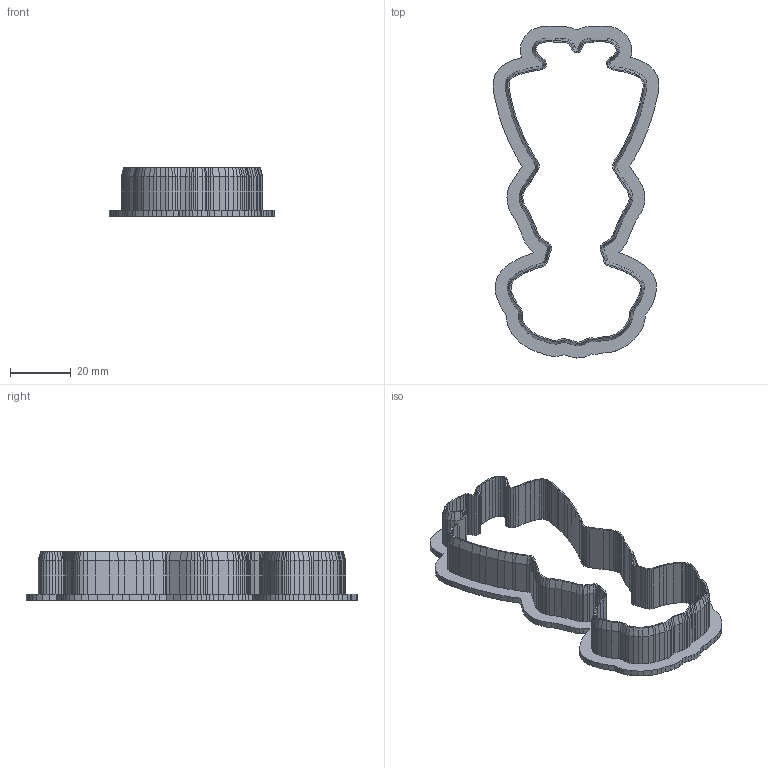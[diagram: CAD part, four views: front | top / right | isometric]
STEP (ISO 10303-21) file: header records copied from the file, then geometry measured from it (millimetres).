
FILE_DESCRIPTION(('Open CASCADE Model'),'2;1');
FILE_NAME('Open CASCADE Shape Model','2026-10-27T16:02:06',('Author'),( 'Open CASCADE'),'Open CASCADE STEP processor 7.9','Open CASCADE 7.9' ,'Unknown');
FILE_SCHEMA(('AUTOMOTIVE_DESIGN { 1 0 10303 214 1 1 1 1 }'));
Products named in the file (1): Open CASCADE STEP translator 7.9 1
Bounding box: 54.51 x 109.19 x 16 mm (x, y, z)
Volume: 7937.4 mm3; surface area: 12704.9 mm2
Topology: 1 solids, 1 shells, 878 faces, 2389 edges, 1514 vertices
Faces by surface type: plane 642, bspline 236
Entity records: 56282 total; most frequent: CARTESIAN_POINT 11842, DIRECTION 6879, LINE 5593, VECTOR 5593, ORIENTED_EDGE 4778, PCURVE 4778, DEFINITIONAL_REPRESENTATION 4778, EDGE_CURVE 2389
